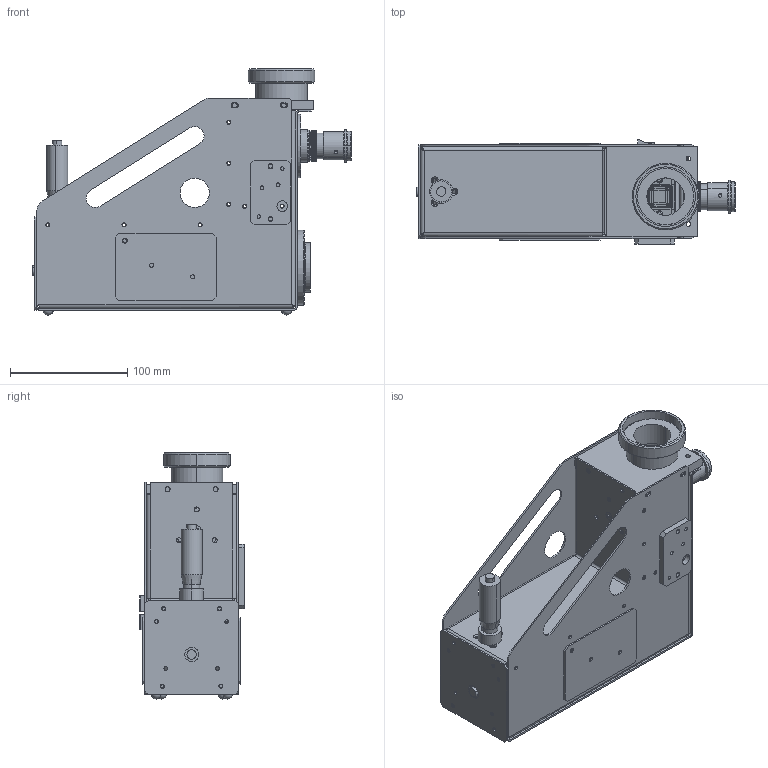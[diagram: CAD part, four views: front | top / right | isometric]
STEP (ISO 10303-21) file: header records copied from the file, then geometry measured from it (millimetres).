
FILE_DESCRIPTION (( 'STEP AP214' ), '1' );
FILE_NAME ('PF0001C Lhires III - Volume STEP2.STEP', '2014-12-15T15:42:03', ( '' ), ( '' ), 'SwSTEP 2.0', 'SolidWorks 2014', '' );
FILE_SCHEMA (( 'AUTOMOTIVE_DESIGN' ));
Length unit declared in the file: millimetre
Products named in the file (51): TO0013F LRef; BA0002 Interface C8LX; PU0096B Bride rÚseau 50mm LhIII; TO0015C FlasqueG; PU0003B Platine telescope; OP0006 Reseau25-50 1200; TO0014C FlasqueD_Flasque droit; SE0002 EnsembleSupportFente; TO0017A MasqueSuppReseau; TO0004D Couvercle; TO0071A Bride 4 fentes Lh III; PU0022A BarreAppuiSuppRes; VIXXXX Vis M3-6TB; PU0021B AxeSupportReseau; PF0001C Lhires III - Volume STEP2; TO0072A Contreplaque 4 fentes Lh III; TO0019C EquerreReseau; OP0048B 4 Fentes Lhires III; RE0001B RessortReseau; PU0010B SupportFente; VisButﾚe; PU0009C BaseFente; TO0016C EtrierReseau; ChassisTole; TO0018B DosReseau; PU0016B EmboutButee; TO0020D CadreReseauPlie; EL0001b ButÚe; SE0003 EnsSupportNeon; PU0163A Coulant Guidage LhIII; SE0004 EnsembleTrappe_2; ConnXLR; PU0143A Ecrou moletﾚ M22-0.75; EL0001a BaseButeeMicro; EL0010 Inter12VNeon; PU0138A Fourreau Guidage; EL0002 PiedCaoutchouc; TO0102B Support Calib LhIII+; CoulantFoc; SE0004 EnsembleTrappe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
Assembly tree (59 placements, depth 4):
  PF0001C Lhires III - Volume STEP2
    ChassisTole
      TO0004D Couvercle
      TO0014C FlasqueD_Flasque droit
      TO0015C FlasqueG
      TO0013F LRef
      PU0015A BrideButee
      SE0004 EnsembleTrappe
        TO0006 Trappe
        TO0007 Cale  x2
      EL0002 PiedCaoutchouc  x4
      EL0001a BaseButeeMicro
      SE0004 EnsembleTrappe_2
        TO0006 Trappe
      EL0001b ButÚe
      PU0016B EmboutButee
    SE0002 EnsembleSupportFente
      PU0009C BaseFente
      PU0010B SupportFente
      OP0048B 4 Fentes Lhires III
      TO0072A Contreplaque 4 fentes Lh III
      VIXXXX Vis M3-6TB  x2
      TO0071A Bride 4 fentes Lh III
    FixationTelescope
      PU0003B Platine telescope
      BA0002 Interface C8LX
      BA0003A BagueC8-LX
    FixationCameraCCD
      PU0001 BrideM42APN
    SE0003 EnsSupportNeon
      TO0102B Support Calib LhIII+
      EL0010 Inter12VNeon  x2
      ConnXLR
    SE0015A Support reseau nu
      TO0020D CadreReseauPlie
      TO0018B DosReseau
      TO0016C EtrierReseau
      VisButﾚe
      RE0001B RessortReseau
      TO0019C EquerreReseau
      PU0021B AxeSupportReseau  x2
      PU0022A BarreAppuiSuppRes
      TO0017A MasqueSuppReseau
      OP0006 Reseau25-50 1200
      PU0096B Bride rÚseau 50mm LhIII  x2
      TO0073A Garde-fou resau LhIII
    CoulantFoc
      PU0091B Douille Guidage
      PU0139A Coulant Guidage
    PU0138A Fourreau Guidage
    PU0143A Ecrou moletﾚ M22-0.75
    PU0163A Coulant Guidage LhIII
Bounding box: 272.04 x 89.31 x 210 mm (x, y, z)
Volume: 421764.5 mm3; surface area: 447463.6 mm2
Topology: 50 solids, 50 shells, 2820 faces, 7342 edges, 4819 vertices
Faces by surface type: plane 1174, cylinder 990, cone 535, bspline 105, torus 12, sphere 4
Entity records: 93684 total; most frequent: CARTESIAN_POINT 22494, ORIENTED_EDGE 14136, DIRECTION 13902, EDGE_CURVE 7068, AXIS2_PLACEMENT_3D 5127, VERTEX_POINT 4639, LINE 3648, VECTOR 3648
